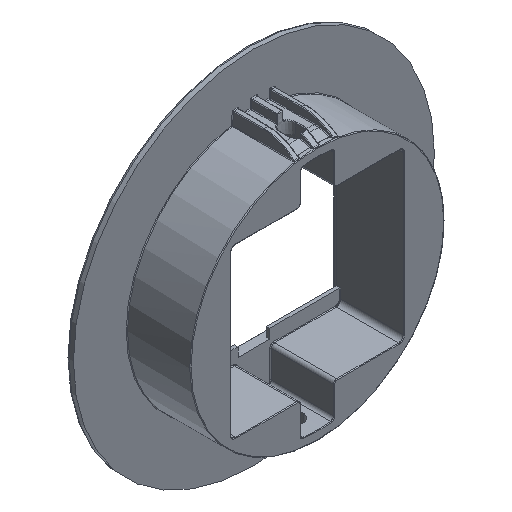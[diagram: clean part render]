
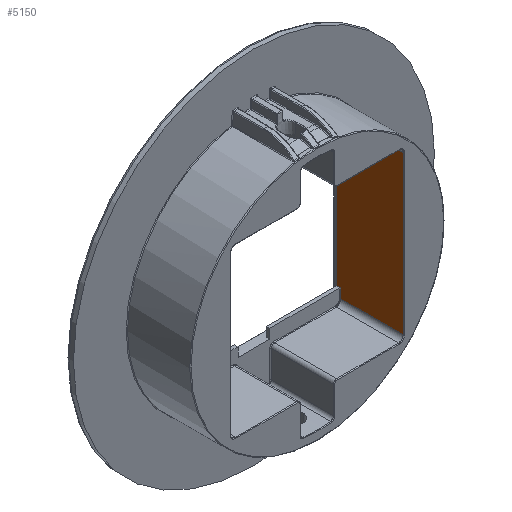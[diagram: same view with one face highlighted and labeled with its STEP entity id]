
A CAD part, isometric view. The second image highlights one B-rep face of the part: STEP entity #5150.
In plain terms, the highlighted planar face has unit normal (-1, 0, 0).
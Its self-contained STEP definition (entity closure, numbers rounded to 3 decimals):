
#123 = DIRECTION ( 'NONE',  ( 0., 0., -1. ) ) ;
#467 = ORIENTED_EDGE ( 'NONE', *, *, #925, .T. ) ;
#533 = VECTOR ( 'NONE', #5566, 1000. ) ;
#925 = EDGE_CURVE ( 'NONE', #3832, #7658, #9476, .T. ) ;
#1110 = CARTESIAN_POINT ( 'NONE',  ( 25.85, 20., -24.147 ) ) ;
#1194 = EDGE_CURVE ( 'NONE', #1785, #3905, #7483, .T. ) ;
#1480 = CARTESIAN_POINT ( 'NONE',  ( 25.85, 18.8, 23.58 ) ) ;
#1506 = CARTESIAN_POINT ( 'NONE',  ( 25.85, 20., -20.767 ) ) ;
#1591 = VERTEX_POINT ( 'NONE', #2340 ) ;
#1611 = FACE_OUTER_BOUND ( 'NONE', #9989, .T. ) ;
#1769 = VECTOR ( 'NONE', #4167, 1000. ) ;
#1785 = VERTEX_POINT ( 'NONE', #1844 ) ;
#1807 = CARTESIAN_POINT ( 'NONE',  ( 25.85, 12.6, -23.58 ) ) ;
#1844 = CARTESIAN_POINT ( 'NONE',  ( 25.85, 18.8, -20.747 ) ) ;
#1999 = CARTESIAN_POINT ( 'NONE',  ( 25.85, 18.8, 20.747 ) ) ;
#2019 = CARTESIAN_POINT ( 'NONE',  ( 25.85, 0.2, -23.58 ) ) ;
#2069 = EDGE_CURVE ( 'NONE', #7658, #3698, #7934, .T. ) ;
#2340 = CARTESIAN_POINT ( 'NONE',  ( 25.85, 20., 20.767 ) ) ;
#2432 = EDGE_CURVE ( 'NONE', #1591, #6404, #5630, .T. ) ;
#2488 = CARTESIAN_POINT ( 'NONE',  ( 25.85, 18.8, 20.75 ) ) ;
#2517 = CARTESIAN_POINT ( 'NONE',  ( 25.85, -49.224, -24.147 ) ) ;
#2722 = DIRECTION ( 'NONE',  ( 0., 1., -0.017 ) ) ;
#2909 = EDGE_CURVE ( 'NONE', #1785, #9604, #5008, .T. ) ;
#3465 = LINE ( 'NONE', #2488, #533 ) ;
#3662 = ORIENTED_EDGE ( 'NONE', *, *, #7549, .T. ) ;
#3698 = VERTEX_POINT ( 'NONE', #6535 ) ;
#3832 = VERTEX_POINT ( 'NONE', #5680 ) ;
#3905 = VERTEX_POINT ( 'NONE', #13428 ) ;
#4128 = CARTESIAN_POINT ( 'NONE',  ( 25.85, 0.2, 23.58 ) ) ;
#4167 = DIRECTION ( 'NONE',  ( 0., 0., 1. ) ) ;
#4297 = DIRECTION ( 'NONE',  ( 0., -1., -0.017 ) ) ;
#4986 = ORIENTED_EDGE ( 'NONE', *, *, #2909, .F. ) ;
#5008 = LINE ( 'NONE', #10282, #9815 ) ;
#5150 = ADVANCED_FACE ( 'NONE', ( #1611 ), #12086, .F. ) ;
#5218 = ORIENTED_EDGE ( 'NONE', *, *, #2432, .F. ) ;
#5222 = LINE ( 'NONE', #1110, #1769 ) ;
#5258 = ORIENTED_EDGE ( 'NONE', *, *, #2069, .T. ) ;
#5566 = DIRECTION ( 'NONE',  ( 0., 0., -1. ) ) ;
#5630 = LINE ( 'NONE', #8792, #10912 ) ;
#5680 = CARTESIAN_POINT ( 'NONE',  ( 25.85, 0.2, -23.58 ) ) ;
#6201 = VECTOR ( 'NONE', #12730, 1000. ) ;
#6404 = VERTEX_POINT ( 'NONE', #1999 ) ;
#6535 = CARTESIAN_POINT ( 'NONE',  ( 25.85, 18.8, 23.58 ) ) ;
#6797 = CARTESIAN_POINT ( 'NONE',  ( 25.85, 12.6, 23.58 ) ) ;
#7211 = ORIENTED_EDGE ( 'NONE', *, *, #1194, .T. ) ;
#7483 = LINE ( 'NONE', #10630, #10669 ) ;
#7549 = EDGE_CURVE ( 'NONE', #3905, #3832, #12638, .T. ) ;
#7658 = VERTEX_POINT ( 'NONE', #9660 ) ;
#7934 = B_SPLINE_CURVE_WITH_KNOTS ( 'NONE', 3,
 ( #11959, #10861, #6797, #1480 ),
 .UNSPECIFIED., .F., .F.,
 ( 4, 4 ),
 ( 0.011, 0.989 ),
 .UNSPECIFIED. ) ;
#8792 = CARTESIAN_POINT ( 'NONE',  ( 25.85, -49.986, 19.546 ) ) ;
#9476 = LINE ( 'NONE', #4128, #6201 ) ;
#9524 = ORIENTED_EDGE ( 'NONE', *, *, #10328, .T. ) ;
#9604 = VERTEX_POINT ( 'NONE', #1506 ) ;
#9660 = CARTESIAN_POINT ( 'NONE',  ( 25.85, 0.2, 23.58 ) ) ;
#9815 = VECTOR ( 'NONE', #2722, 1000. ) ;
#9989 = EDGE_LOOP ( 'NONE', ( #5258, #9524, #5218, #12387, #4986, #7211, #3662, #467 ) ) ;
#10096 = AXIS2_PLACEMENT_3D ( 'NONE', #2517, #11250, #13268 ) ;
#10282 = CARTESIAN_POINT ( 'NONE',  ( 25.85, -49.144, -19.561 ) ) ;
#10328 = EDGE_CURVE ( 'NONE', #3698, #6404, #3465, .T. ) ;
#10630 = CARTESIAN_POINT ( 'NONE',  ( 25.85, 18.8, -23.58 ) ) ;
#10669 = VECTOR ( 'NONE', #123, 1000. ) ;
#10861 = CARTESIAN_POINT ( 'NONE',  ( 25.85, 6.4, 23.58 ) ) ;
#10912 = VECTOR ( 'NONE', #4297, 1000. ) ;
#11250 = DIRECTION ( 'NONE',  ( 1., 0., 0. ) ) ;
#11379 = CARTESIAN_POINT ( 'NONE',  ( 25.85, 18.8, -23.58 ) ) ;
#11959 = CARTESIAN_POINT ( 'NONE',  ( 25.85, 0.2, 23.58 ) ) ;
#12086 = PLANE ( 'NONE',  #10096 ) ;
#12387 = ORIENTED_EDGE ( 'NONE', *, *, #13313, .F. ) ;
#12495 = CARTESIAN_POINT ( 'NONE',  ( 25.85, 6.4, -23.58 ) ) ;
#12638 = B_SPLINE_CURVE_WITH_KNOTS ( 'NONE', 3,
 ( #11379, #1807, #12495, #2019 ),
 .UNSPECIFIED., .F., .F.,
 ( 4, 4 ),
 ( 0.011, 0.989 ),
 .UNSPECIFIED. ) ;
#12730 = DIRECTION ( 'NONE',  ( 0., 0., 1. ) ) ;
#13268 = DIRECTION ( 'NONE',  ( 0., 0., -1. ) ) ;
#13313 = EDGE_CURVE ( 'NONE', #9604, #1591, #5222, .T. ) ;
#13428 = CARTESIAN_POINT ( 'NONE',  ( 25.85, 18.8, -23.58 ) ) ;
